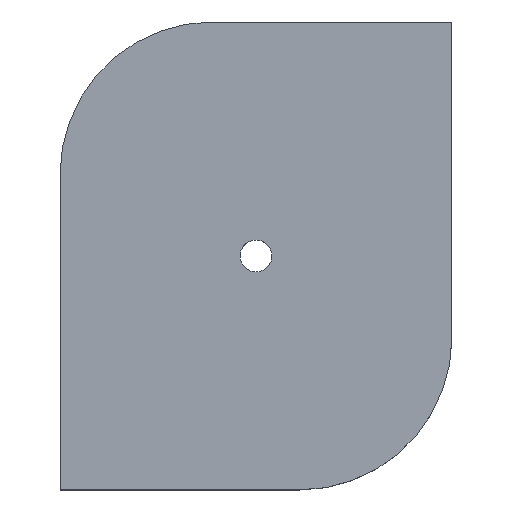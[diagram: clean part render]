
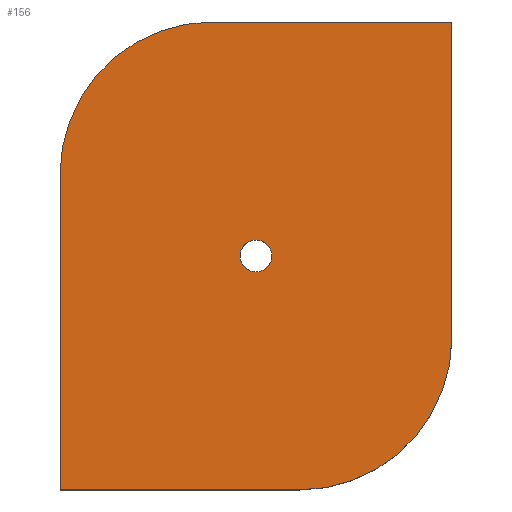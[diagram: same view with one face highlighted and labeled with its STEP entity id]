
A CAD part, top view. The second image highlights one B-rep face of the part: STEP entity #156.
In plain terms, the highlighted planar face has unit normal (0, 0, 1).
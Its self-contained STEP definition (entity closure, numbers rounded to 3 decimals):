
#63=CARTESIAN_POINT('Vertex',(47.825,63.508,18.)) ;
#77=CARTESIAN_POINT('Vertex',(55.175,59.492,18.)) ;
#80=CARTESIAN_POINT('Axis2P3D Location',(51.5,61.5,18.)) ;
#92=CARTESIAN_POINT('Axis2P3D Location',(0.,0.,18.)) ;
#97=CARTESIAN_POINT('Line Origine',(0.,41.5,18.)) ;
#101=CARTESIAN_POINT('Vertex',(0.,83.,18.)) ;
#103=CARTESIAN_POINT('Vertex',(0.,0.,18.)) ;
#106=CARTESIAN_POINT('Line Origine',(31.5,0.,18.)) ;
#110=CARTESIAN_POINT('Vertex',(63.,0.,18.)) ;
#113=CARTESIAN_POINT('Axis2P3D Location',(63.,40.,18.)) ;
#117=CARTESIAN_POINT('Vertex',(103.,40.,18.)) ;
#120=CARTESIAN_POINT('Line Origine',(103.,81.5,18.)) ;
#124=CARTESIAN_POINT('Vertex',(103.,123.,18.)) ;
#127=CARTESIAN_POINT('Line Origine',(71.5,123.,18.)) ;
#131=CARTESIAN_POINT('Vertex',(40.,123.,18.)) ;
#134=CARTESIAN_POINT('Axis2P3D Location',(40.,83.,18.)) ;
#147=CARTESIAN_POINT('Axis2P3D Location',(51.5,61.5,18.)) ;
#81=DIRECTION('Axis2P3D Direction',(0.,-0.,-1.)) ;
#93=DIRECTION('Axis2P3D Direction',(0.,0.,1.)) ;
#94=DIRECTION('Axis2P3D XDirection',(1.,0.,0.)) ;
#98=DIRECTION('Vector Direction',(0.,-1.,0.)) ;
#107=DIRECTION('Vector Direction',(1.,0.,0.)) ;
#114=DIRECTION('Axis2P3D Direction',(0.,0.,1.)) ;
#121=DIRECTION('Vector Direction',(0.,1.,0.)) ;
#128=DIRECTION('Vector Direction',(-1.,0.,0.)) ;
#135=DIRECTION('Axis2P3D Direction',(0.,0.,1.)) ;
#148=DIRECTION('Axis2P3D Direction',(0.,0.,1.)) ;
#82=AXIS2_PLACEMENT_3D('Circle Axis2P3D',#80,#81,$) ;
#95=AXIS2_PLACEMENT_3D('Plane Axis2P3D',#92,#93,#94) ;
#115=AXIS2_PLACEMENT_3D('Circle Axis2P3D',#113,#114,$) ;
#136=AXIS2_PLACEMENT_3D('Circle Axis2P3D',#134,#135,$) ;
#149=AXIS2_PLACEMENT_3D('Circle Axis2P3D',#147,#148,$) ;
#140=ORIENTED_EDGE('',*,*,#105,.T.) ;
#141=ORIENTED_EDGE('',*,*,#112,.T.) ;
#142=ORIENTED_EDGE('',*,*,#119,.F.) ;
#143=ORIENTED_EDGE('',*,*,#126,.T.) ;
#144=ORIENTED_EDGE('',*,*,#133,.T.) ;
#145=ORIENTED_EDGE('',*,*,#138,.F.) ;
#153=ORIENTED_EDGE('',*,*,#151,.F.) ;
#154=ORIENTED_EDGE('',*,*,#84,.F.) ;
#155=FACE_BOUND('',#152,.T.) ;
#99=VECTOR('Line Direction',#98,1.) ;
#108=VECTOR('Line Direction',#107,1.) ;
#122=VECTOR('Line Direction',#121,1.) ;
#129=VECTOR('Line Direction',#128,1.) ;
#156=ADVANCED_FACE('PartBody',(#146,#155),#96,.T.) ;
#83=CIRCLE('generated circle',#82,4.188) ;
#116=CIRCLE('generated circle',#115,40.) ;
#137=CIRCLE('generated circle',#136,40.) ;
#150=CIRCLE('generated circle',#149,4.188) ;
#84=EDGE_CURVE('',#78,#64,#83,.F.) ;
#105=EDGE_CURVE('',#102,#104,#100,.T.) ;
#112=EDGE_CURVE('',#104,#111,#109,.T.) ;
#119=EDGE_CURVE('',#118,#111,#116,.F.) ;
#126=EDGE_CURVE('',#118,#125,#123,.T.) ;
#133=EDGE_CURVE('',#125,#132,#130,.T.) ;
#138=EDGE_CURVE('',#102,#132,#137,.F.) ;
#151=EDGE_CURVE('',#64,#78,#150,.T.) ;
#139=EDGE_LOOP('',(#140,#141,#142,#143,#144,#145)) ;
#152=EDGE_LOOP('',(#153,#154)) ;
#146=FACE_OUTER_BOUND('',#139,.T.) ;
#100=LINE('Line',#97,#99) ;
#109=LINE('Line',#106,#108) ;
#123=LINE('Line',#120,#122) ;
#130=LINE('Line',#127,#129) ;
#96=PLANE('',#95) ;
#64=VERTEX_POINT('',#63) ;
#78=VERTEX_POINT('',#77) ;
#102=VERTEX_POINT('',#101) ;
#104=VERTEX_POINT('',#103) ;
#111=VERTEX_POINT('',#110) ;
#118=VERTEX_POINT('',#117) ;
#125=VERTEX_POINT('',#124) ;
#132=VERTEX_POINT('',#131) ;
